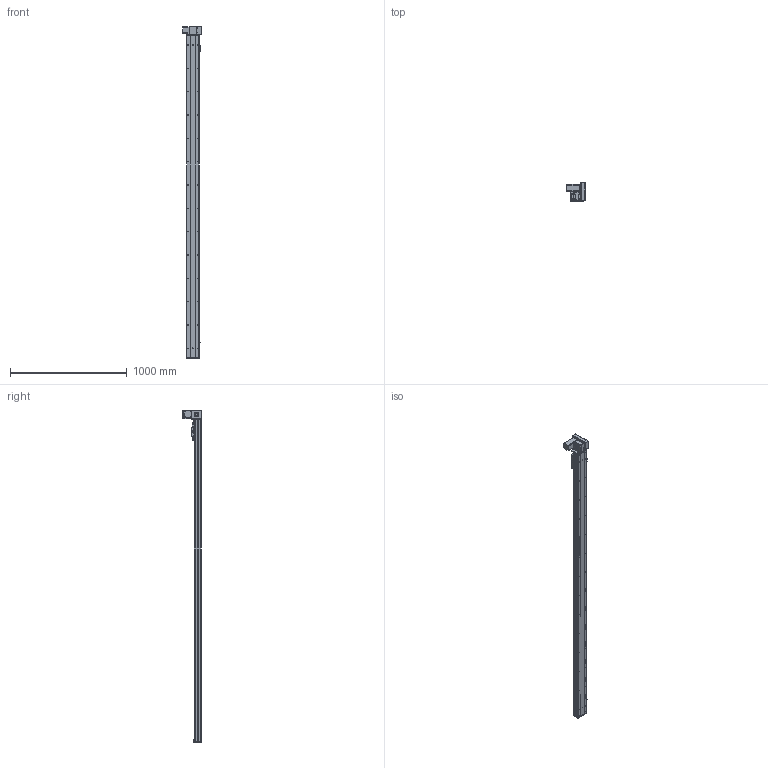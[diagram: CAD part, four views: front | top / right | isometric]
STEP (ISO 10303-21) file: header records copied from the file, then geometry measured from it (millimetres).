
FILE_DESCRIPTION (( 'STEP AP203' ), '1' );
FILE_NAME ('Y10CB-D90-S2500-UR-P400W.STEP', '2020-02-16T04:14:50', ( '微软用户' ), ( '微软中国' ), 'SwSTEP 2.0', 'SolidWorks 2017', '' );
FILE_SCHEMA (( 'CONFIG_CONTROL_DESIGN' ));
Length unit declared in the file: millimetre
Products named in the file (18): 00B-俋欶BM--; Y10CB- 掛极耜裔啣-毀---; 0CB-雄赽釱---; Y10CB-D90-S2500-UR-P400W; Y10C---詩湍揤啣; 0Cb-俋欶---; 10CB9-掛极; Y10B-々湍喘謫眊楊擘啣--; 10CB-耜裔; 0B-萇儂楊擘啣; Y135C-陔俋离換覜結え-; san松下电机400不带刹车----; Y100-135俋离換覜ん--; 0B-源倛裔啣; Y10B--々湍喘謫眊--666; 0B-埴倛裔啣; Y10B-耜蚾蟀諉啣----; 10CB-詩湍-
Assembly tree (21 placements, depth 2):
  Y10CB-D90-S2500-UR-P400W
    0CB-雄赽釱---
    0Cb-俋欶---
    Y10B-々湍喘謫眊楊擘啣--
    0B-萇儂楊擘啣
    san松下电机400不带刹车----
    0B-源倛裔啣
    0B-埴倛裔啣
    10CB-詩湍-
    Y10CB- 掛极耜裔啣-毀---  x2
    Y10C---詩湍揤啣  x2
    10CB9-掛极
    10CB-耜裔
    Y135C-陔俋离換覜結え-
    Y100-135俋离換覜ん--  x3
    Y10B--々湍喘謫眊--666
    Y10B-耜蚾蟀諉啣----
    00B-俋欶BM--
Bounding box: 157 x 155.5 x 2846 mm (x, y, z)
Volume: 5753531 mm3; surface area: 2732010.6 mm2
Topology: 21 solids, 21 shells, 1074 faces, 2923 edges, 1898 vertices
Faces by surface type: cylinder 559, plane 491, cone 24
Entity records: 34412 total; most frequent: CARTESIAN_POINT 6505, DIRECTION 5474, ORIENTED_EDGE 5316, EDGE_CURVE 2658, AXIS2_PLACEMENT_3D 1957, VERTEX_POINT 1724, VECTOR 1560, LINE 1560
